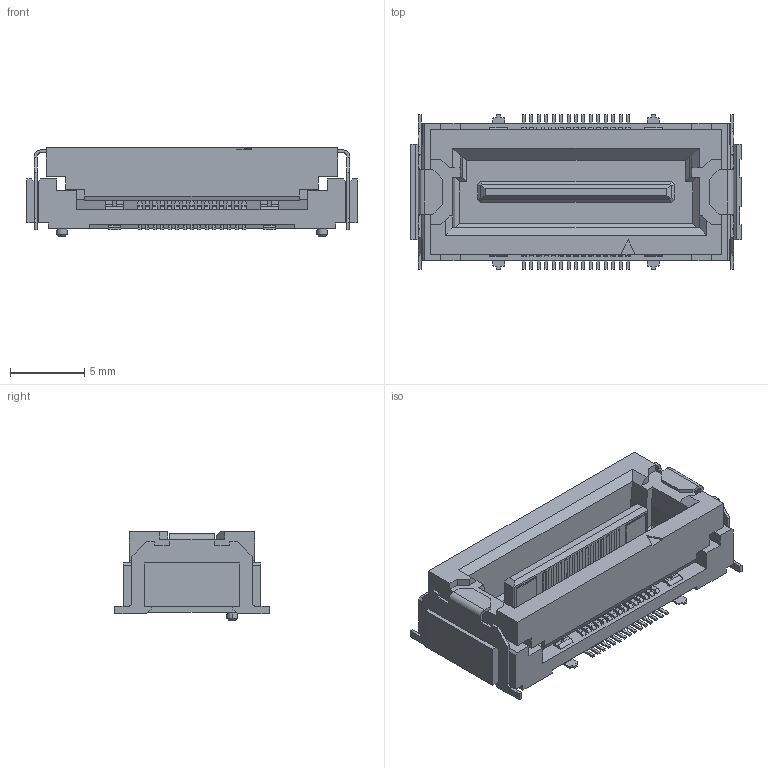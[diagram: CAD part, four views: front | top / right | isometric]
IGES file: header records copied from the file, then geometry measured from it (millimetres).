
Start section: SolidWorks IGES file using analytic representation for surfaces
Global section: file name: C:\Users\1390\Desktop\作業用\まとめ\DTコネクタ\●電源付き\3D\DT01E-030S-T.IGS; native system: SolidWorks 2023; preprocessor: SolidWorks 2023; author: 1390; date: 240605.172822; units: millimetre
Bounding box: 22.2 x 10.38 x 5.95 mm (x, y, z)
Surface area: 1444.7 mm2 (no closed solid volume)
Topology: 0 solids, 0 shells, 1588 faces, 10569 edges, 10569 vertices
Faces by surface type: bspline 1210, revolution 378
